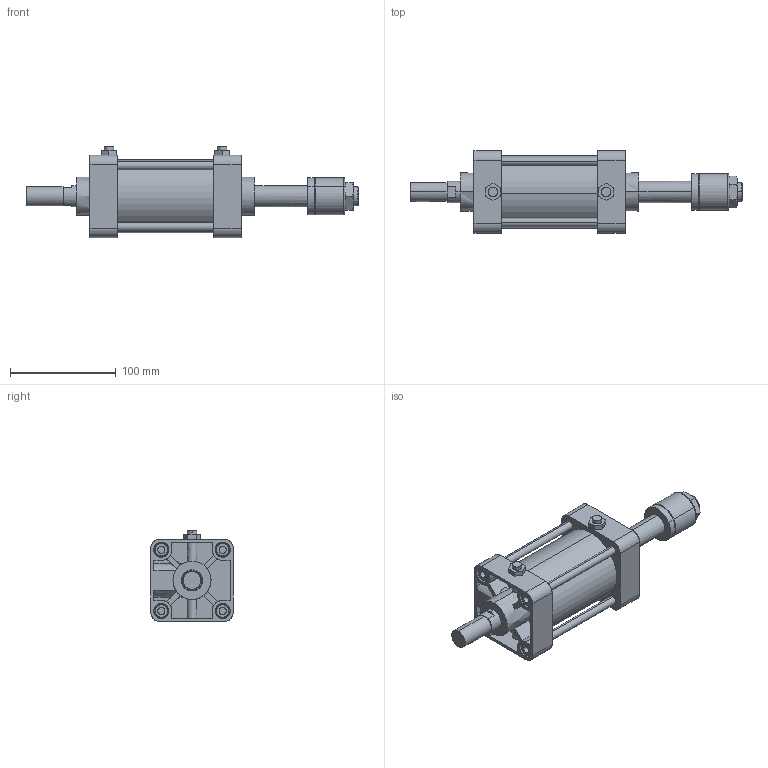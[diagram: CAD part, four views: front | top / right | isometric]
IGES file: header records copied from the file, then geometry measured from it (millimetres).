
Start section: SolidWorks IGES file using analytic representation for surfaces
Global section: file name: C:\Users\Toshiba\Desktop\KGA7-63#-50-N.IGS; native system: SolidWorks 2014; preprocessor: SolidWorks 2014; author: Toshiba; date: 160414.155206; units: millimetre
Bounding box: 314 x 78 x 86.3 mm (x, y, z)
Surface area: 135645.9 mm2 (no closed solid volume)
Topology: 0 solids, 0 shells, 369 faces, 6054 edges, 6050 vertices
Faces by surface type: bspline 205, revolution 164
